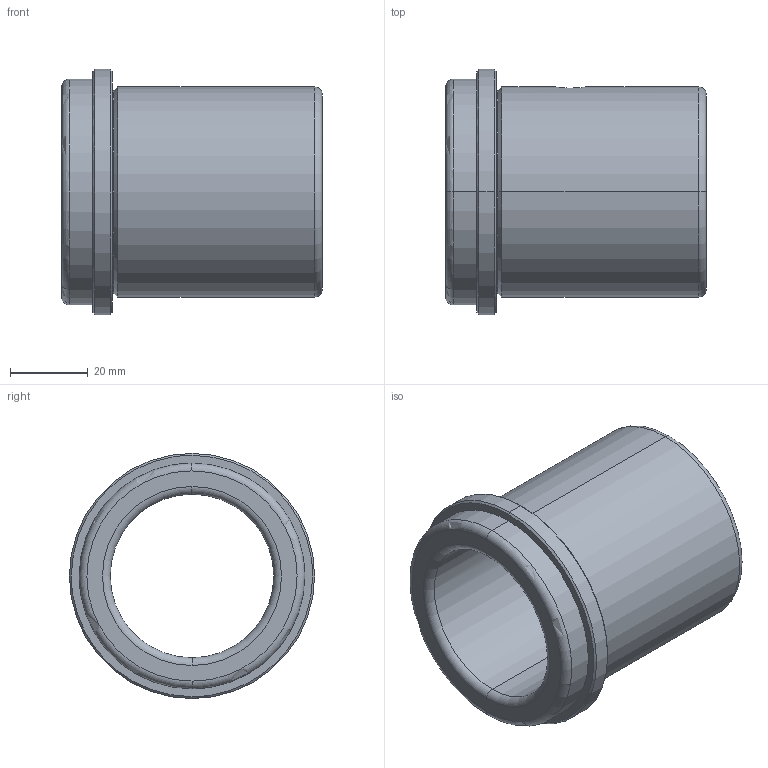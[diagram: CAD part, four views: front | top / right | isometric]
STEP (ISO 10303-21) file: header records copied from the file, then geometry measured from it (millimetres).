
FILE_DESCRIPTION(('CATIA V5 STEP Exchange'),'2;1');
FILE_NAME('C:\Users\Utente\Desktop\IO LAVORO\3D X SITO CF\X SITO\FAMO\FAMO-SF1-B42 x 67.stp','2021-01-06T17:11:40+00:00',('none'),('none'),'CATIA Version 5 Release 20 GA (IN-10)','CATIA V5 STEP AP203','none');
FILE_SCHEMA(('CONFIG_CONTROL_DESIGN'));
Length unit declared in the file: millimetre
Products named in the file (1): FAMO-SF1-B42 x 67
Bounding box: 67 x 63 x 63 mm (x, y, z)
Volume: 66212.5 mm3; surface area: 23783.8 mm2
Topology: 1 solids, 1 shells, 33 faces, 114 edges, 86 vertices
Faces by surface type: cylinder 12, torus 8, cone 8, plane 5
Entity records: 1544 total; most frequent: CARTESIAN_POINT 524, ORIENTED_EDGE 228, DIRECTION 158, EDGE_CURVE 114, AXIS2_PLACEMENT_3D 106, VERTEX_POINT 86, CIRCLE 72, EDGE_LOOP 40
